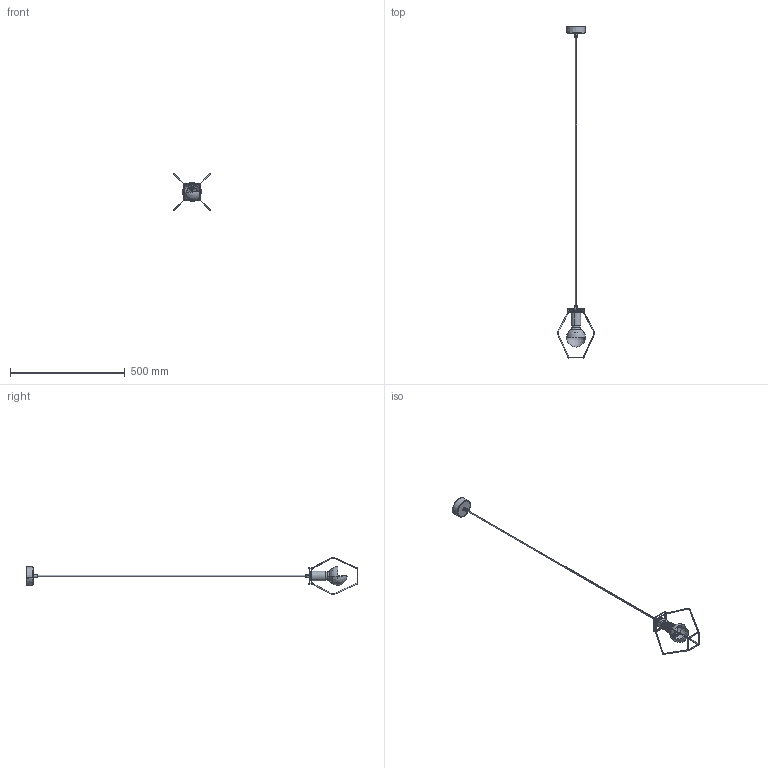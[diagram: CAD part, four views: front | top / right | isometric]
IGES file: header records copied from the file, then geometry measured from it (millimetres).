
Start section: SolidWorks IGES file using analytic representation for surfaces
Global section: file name: E:\_DESIGN\NOWOŒCI\Druciaki\Wybrane druciaki\Wzór diament\FIORD_diament.IGS; native system: SolidWorks 2016; preprocessor: SolidWorks 2016; author: Asia; date: 170317.152915; units: millimetre
Bounding box: 163.48 x 1447.39 x 163.48 mm (x, y, z)
Surface area: 170423 mm2 (no closed solid volume)
Topology: 0 solids, 0 shells, 680 faces, 9532 edges, 9527 vertices
Faces by surface type: revolution 401, bspline 279
